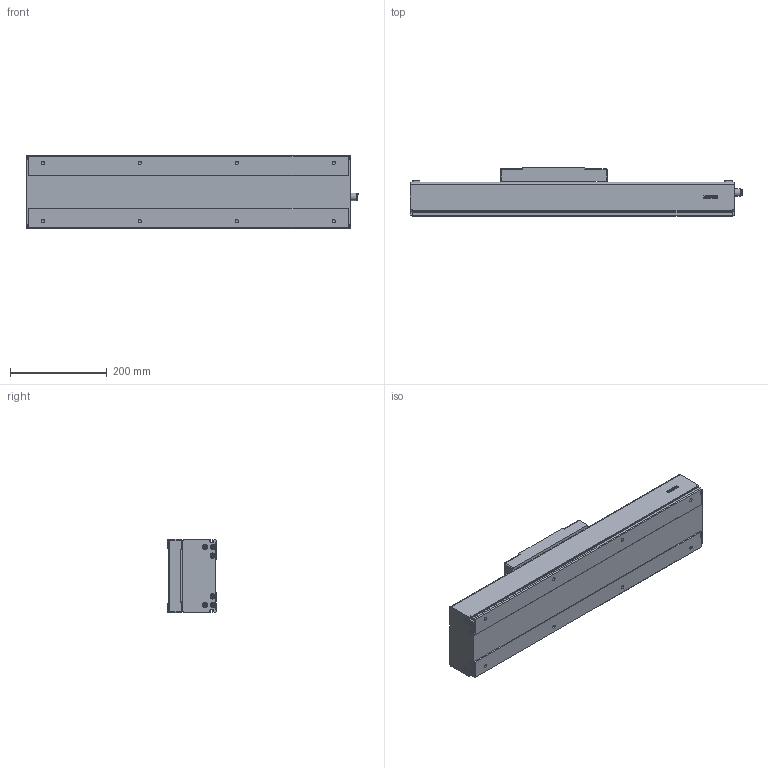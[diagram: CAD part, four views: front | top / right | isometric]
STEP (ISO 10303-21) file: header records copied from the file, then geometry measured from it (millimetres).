
FILE_DESCRIPTION(/* description */ (''),/* implementation_level */ '2;1');
FILE_NAME(/* name */ 'D:\混合母檔20191031\混和母檔\混和母檔\bin\Debug\Download\3D\KS150-10C-150AFI\KS150-10C-150AFI.stp',/* time_stamp */ '2019-11-04T15:41:45+08:00',/* author */ ('user'),/* organization */ (''),/* preprocessor_version */ 'ST-DEVELOPER v16.13',/* originating_system */ 'Autodesk Inventor 2018',/* authorisation */ '');
FILE_SCHEMA (('AUTOMOTIVE_DESIGN { 1 0 10303 214 3 1 1 }'));
Length unit declared in the file: millimetre
Products named in the file (3): KS150-10C-150AFI; KS150-FI; KS150-SL
Assembly tree (2 placements, depth 2):
  KS150-10C-150AFI
    KS150-FI
    KS150-SL
Bounding box: 685.05 x 100 x 152.4 mm (x, y, z)
Volume: 3265947.2 mm3; surface area: 744091.1 mm2
Topology: 4 solids, 8 shells, 1229 faces, 3245 edges, 2106 vertices
Faces by surface type: plane 615, cone 222, cylinder 184, bspline 136, torus 68, sphere 4
Full cylindrical faces by diameter (mm): 3.242 x12, 3.571 x8, 4.134 x4, 4.5 x8, 4.509 x6, 4.917 x4, 5 x18, 5.5 x12, 6 x2, 6.647 x12, 8 x4, 8.4 x8, 9.3 x12, 10.437 x1, 12 x1, 14 x1, 15 x1, 15.538 x1, 23 x1, 46 x1, 50 x1
Entity records: 40728 total; most frequent: CARTESIAN_POINT 12684, ORIENTED_EDGE 5816, DIRECTION 5377, EDGE_CURVE 2908, VERTEX_POINT 2004, AXIS2_PLACEMENT_3D 1856, LINE 1665, VECTOR 1665
